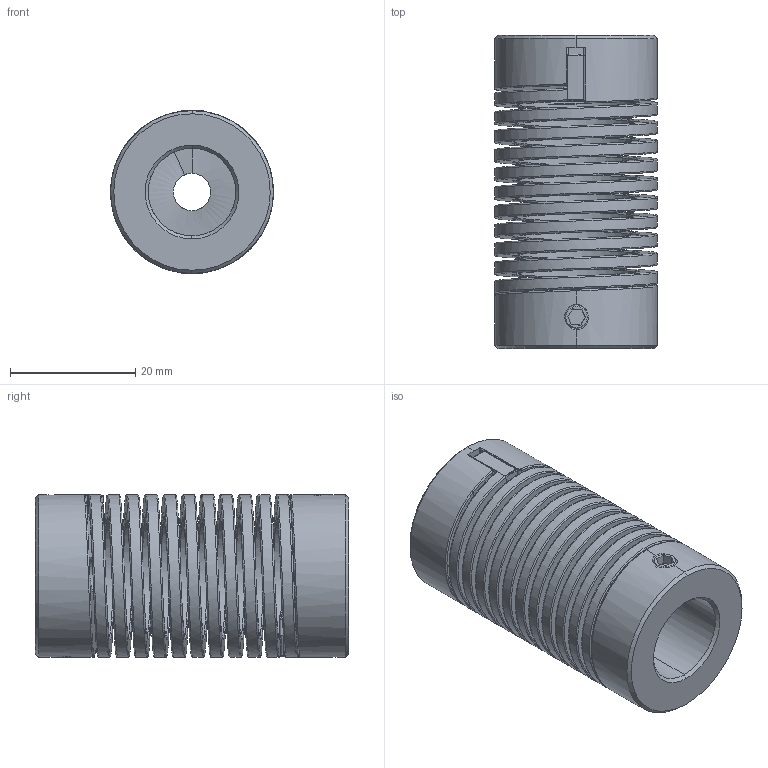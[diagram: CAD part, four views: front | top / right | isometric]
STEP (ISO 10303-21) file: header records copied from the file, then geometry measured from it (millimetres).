
FILE_DESCRIPTION (( 'STEP AP214' ), '1' );
FILE_NAME ('9401.6_14.STEP', '2019-03-11T09:02:15', ( '' ), ( '' ), 'SwSTEP 2.0', 'SolidWorks 2019', '' );
FILE_SCHEMA (( 'AUTOMOTIVE_DESIGN' ));
Length unit declared in the file: millimetre
Products named in the file (7): GIU.9401.6; GIU.9401.6_D14; GIU.9401.6_GRA_D14; GIU.9401.6_GRA; GIU.9401.M; 9401.6_14; GRA.4X6
Assembly tree (7 placements, depth 3):
  9401.6_14
    GIU.9401.M
    GIU.9401.6_GRA_D14
      GIU.9401.6_D14
      GRA.4X6
    GIU.9401.6_GRA
      GIU.9401.6
      GRA.4X6
Bounding box: 26 x 50 x 26.01 mm (x, y, z)
Volume: 12736.7 mm3; surface area: 11824.8 mm2
Topology: 5 solids, 5 shells, 156 faces, 385 edges, 229 vertices
Faces by surface type: plane 49, cylinder 38, bspline 37, cone 20, torus 8, sphere 4
Entity records: 13123 total; most frequent: CARTESIAN_POINT 9789, ORIENTED_EDGE 694, DIRECTION 534, EDGE_CURVE 347, VERTEX_POINT 209, AXIS2_PLACEMENT_3D 201, EDGE_LOOP 144, FACE_OUTER_BOUND 141
